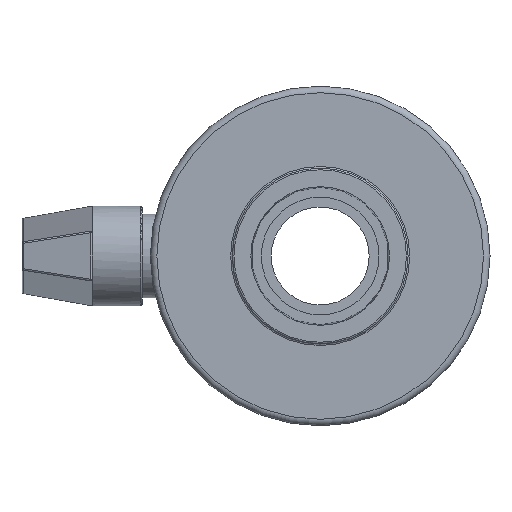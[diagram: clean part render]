
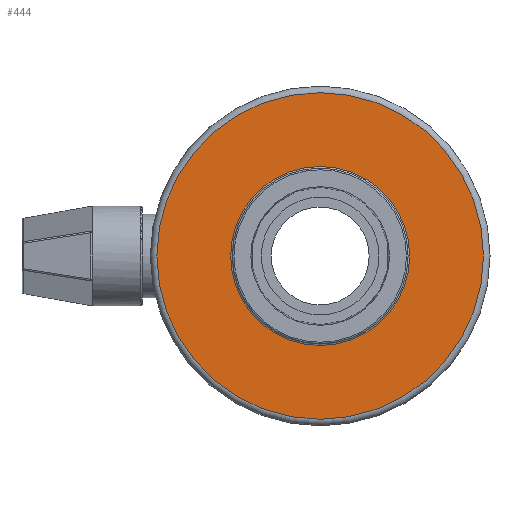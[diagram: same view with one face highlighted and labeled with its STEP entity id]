
A CAD part, left-side view. The second image highlights one B-rep face of the part: STEP entity #444.
In plain terms, the highlighted planar face has unit normal (-1, 0, 0).
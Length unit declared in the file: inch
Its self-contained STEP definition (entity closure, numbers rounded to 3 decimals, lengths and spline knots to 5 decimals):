
#84 = DIRECTION ( 'NONE',  ( -1., 0., 0. ) ) ;
#336 = CARTESIAN_POINT ( 'NONE',  ( -1.95625, 0., 0. ) ) ;
#375 = PLANE ( 'NONE',  #2436 ) ;
#382 = VERTEX_POINT ( 'NONE', #980 ) ;
#433 = DIRECTION ( 'NONE',  ( 1., 0., 0. ) ) ;
#444 = ADVANCED_FACE ( 'NONE', ( #2193, #1999 ), #375, .F. ) ;
#566 = EDGE_CURVE ( 'NONE', #382, #382, #1764, .T. ) ;
#722 = DIRECTION ( 'NONE',  ( 1., 0., 0. ) ) ;
#755 = CIRCLE ( 'NONE', #1402, 1.96813 ) ;
#980 = CARTESIAN_POINT ( 'NONE',  ( -1.95625, 0., -1.07869 ) ) ;
#1130 = DIRECTION ( 'NONE',  ( 0., 0., -1. ) ) ;
#1285 = EDGE_LOOP ( 'NONE', ( #2422 ) ) ;
#1297 = ORIENTED_EDGE ( 'NONE', *, *, #1984, .T. ) ;
#1399 = EDGE_LOOP ( 'NONE', ( #1297 ) ) ;
#1402 = AXIS2_PLACEMENT_3D ( 'NONE', #2237, #84, #2014 ) ;
#1732 = VERTEX_POINT ( 'NONE', #1935 ) ;
#1764 = CIRCLE ( 'NONE', #2018, 1.07869 ) ;
#1787 = DIRECTION ( 'NONE',  ( 0., 0., -1. ) ) ;
#1935 = CARTESIAN_POINT ( 'NONE',  ( -1.95625, 0., -1.96813 ) ) ;
#1950 = CARTESIAN_POINT ( 'NONE',  ( -1.95625, 1.059, 0. ) ) ;
#1984 = EDGE_CURVE ( 'NONE', #1732, #1732, #755, .T. ) ;
#1999 = FACE_BOUND ( 'NONE', #1285, .T. ) ;
#2014 = DIRECTION ( 'NONE',  ( 0., 0., -1. ) ) ;
#2018 = AXIS2_PLACEMENT_3D ( 'NONE', #336, #722, #1130 ) ;
#2193 = FACE_OUTER_BOUND ( 'NONE', #1399, .T. ) ;
#2237 = CARTESIAN_POINT ( 'NONE',  ( -1.95625, 0., 0. ) ) ;
#2422 = ORIENTED_EDGE ( 'NONE', *, *, #566, .T. ) ;
#2436 = AXIS2_PLACEMENT_3D ( 'NONE', #1950, #433, #1787 ) ;
